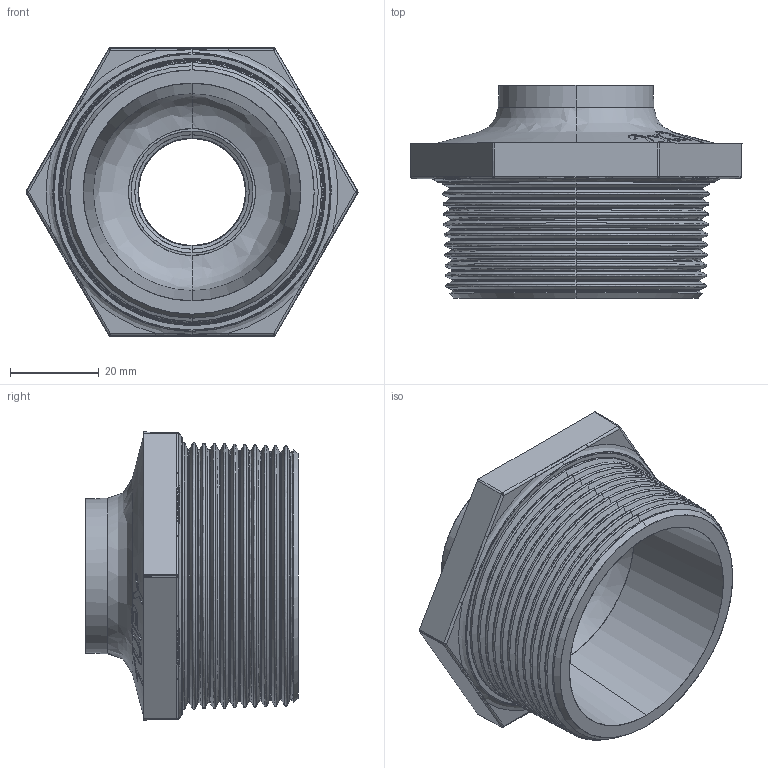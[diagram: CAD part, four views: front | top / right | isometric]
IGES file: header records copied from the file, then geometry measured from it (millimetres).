
Start section: SolidWorks IGES file using analytic representation for surfaces
Global section: file name: C:\Users\Joel Rosa\Desktop\Tubulação\12-01-OK\12-01-044.IGS; native system: SolidWorks 2011; preprocessor: SolidWorks 2011; author: Joel Rosa; date: 121203.201958; units: millimetre
Bounding box: 74.9 x 48 x 65 mm (x, y, z)
Surface area: 22500.3 mm2 (no closed solid volume)
Topology: 0 solids, 0 shells, 406 faces, 4142 edges, 4142 vertices
Faces by surface type: bspline 273, revolution 133
